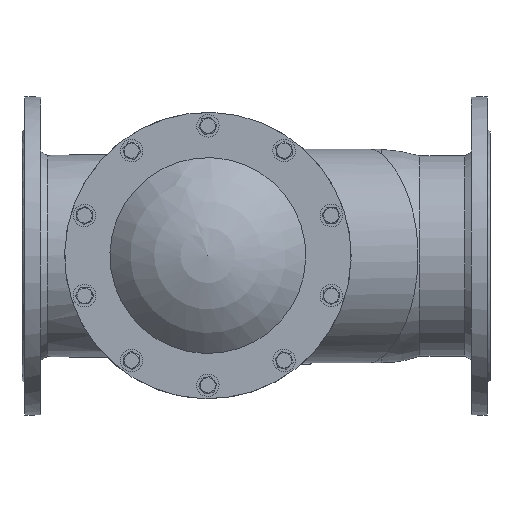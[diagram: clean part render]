
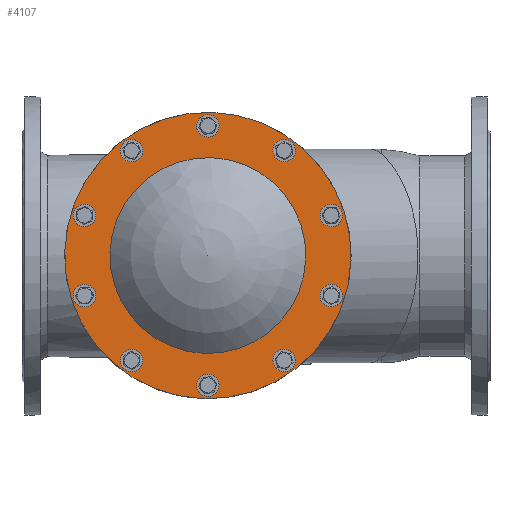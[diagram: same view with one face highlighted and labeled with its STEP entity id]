
A CAD part, top view. The second image highlights one B-rep face of the part: STEP entity #4107.
In plain terms, the highlighted planar face has unit normal (0, 0, 1).
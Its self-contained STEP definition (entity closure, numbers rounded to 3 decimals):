
#4107=ADVANCED_FACE('',(#7933,#7935,#7937,#7939,#7941,#7943,#7945,#7947,#7949,#7951,
#7953,#7955),#7957,.T.);
#7933=FACE_BOUND('',#7934,.T.);
#7934=EDGE_LOOP('',(#12355));
#7935=FACE_BOUND('',#7936,.T.);
#7936=EDGE_LOOP('',(#12356));
#7937=FACE_BOUND('',#7938,.T.);
#7938=EDGE_LOOP('',(#12357));
#7939=FACE_BOUND('',#7940,.T.);
#7940=EDGE_LOOP('',(#12358));
#7941=FACE_BOUND('',#7942,.T.);
#7942=EDGE_LOOP('',(#12359));
#7943=FACE_BOUND('',#7944,.T.);
#7944=EDGE_LOOP('',(#12360));
#7945=FACE_BOUND('',#7946,.T.);
#7946=EDGE_LOOP('',(#12361));
#7947=FACE_BOUND('',#7948,.T.);
#7948=EDGE_LOOP('',(#12362));
#7949=FACE_BOUND('',#7950,.T.);
#7950=EDGE_LOOP('',(#12363));
#7951=FACE_BOUND('',#7952,.T.);
#7952=EDGE_LOOP('',(#12364));
#7953=FACE_BOUND('',#7954,.T.);
#7954=EDGE_LOOP('',(#12365));
#7955=FACE_BOUND('',#7956,.T.);
#7956=EDGE_LOOP('',(#12366));
#7957=PLANE('',#7958);
#7958=AXIS2_PLACEMENT_3D('',#7959,#7960,#7961);
#7959=CARTESIAN_POINT('',(0.,0.,14.));
#7960=DIRECTION('',(0.,0.,1.));
#7961=DIRECTION('',(-1.,0.,0.));
#12355=ORIENTED_EDGE('',*,*,#13587,.T.);
#12356=ORIENTED_EDGE('',*,*,#13586,.T.);
#12357=ORIENTED_EDGE('',*,*,#13588,.T.);
#12358=ORIENTED_EDGE('',*,*,#13589,.T.);
#12359=ORIENTED_EDGE('',*,*,#13590,.T.);
#12360=ORIENTED_EDGE('',*,*,#13591,.T.);
#12361=ORIENTED_EDGE('',*,*,#13592,.T.);
#12362=ORIENTED_EDGE('',*,*,#13593,.T.);
#12363=ORIENTED_EDGE('',*,*,#13594,.T.);
#12364=ORIENTED_EDGE('',*,*,#13595,.T.);
#12365=ORIENTED_EDGE('',*,*,#13596,.T.);
#12366=ORIENTED_EDGE('',*,*,#13597,.T.);
#13586=EDGE_CURVE('',#15390,#15390,#15391,.F.);
#13587=EDGE_CURVE('',#15392,#15392,#15393,.T.);
#13588=EDGE_CURVE('',#15394,#15394,#15395,.F.);
#13589=EDGE_CURVE('',#15396,#15396,#15397,.F.);
#13590=EDGE_CURVE('',#15398,#15398,#15399,.F.);
#13591=EDGE_CURVE('',#15400,#15400,#15401,.F.);
#13592=EDGE_CURVE('',#15402,#15402,#15403,.F.);
#13593=EDGE_CURVE('',#15404,#15404,#15405,.F.);
#13594=EDGE_CURVE('',#15406,#15406,#15407,.F.);
#13595=EDGE_CURVE('',#15408,#15408,#15409,.F.);
#13596=EDGE_CURVE('',#15410,#15410,#15411,.F.);
#13597=EDGE_CURVE('',#15412,#15412,#15413,.F.);
#15390=VERTEX_POINT('',#21721);
#15391=CIRCLE('',#21722,104.645);
#15392=VERTEX_POINT('',#21726);
#15393=CIRCLE('',#21727,153.);
#15394=VERTEX_POINT('',#21731);
#15395=CIRCLE('',#21732,7.);
#15396=VERTEX_POINT('',#21736);
#15397=CIRCLE('',#21737,7.);
#15398=VERTEX_POINT('',#21741);
#15399=CIRCLE('',#21742,7.);
#15400=VERTEX_POINT('',#21746);
#15401=CIRCLE('',#21747,7.);
#15402=VERTEX_POINT('',#21751);
#15403=CIRCLE('',#21752,7.);
#15404=VERTEX_POINT('',#21756);
#15405=CIRCLE('',#21757,7.);
#15406=VERTEX_POINT('',#21761);
#15407=CIRCLE('',#21762,7.);
#15408=VERTEX_POINT('',#21766);
#15409=CIRCLE('',#21767,7.);
#15410=VERTEX_POINT('',#21771);
#15411=CIRCLE('',#21772,7.);
#15412=VERTEX_POINT('',#21776);
#15413=CIRCLE('',#21777,7.);
#21721=CARTESIAN_POINT('',(0.,104.645,14.));
#21722=AXIS2_PLACEMENT_3D('',#21723,#21724,#21725);
#21723=CARTESIAN_POINT('',(0.,0.,14.));
#21724=DIRECTION('',(0.,0.,1.));
#21725=DIRECTION('',(0.,1.,0.));
#21726=CARTESIAN_POINT('',(-153.,0.,14.));
#21727=AXIS2_PLACEMENT_3D('',#21728,#21729,#21730);
#21728=CARTESIAN_POINT('',(0.,0.,14.));
#21729=DIRECTION('',(0.,0.,1.));
#21730=DIRECTION('',(-1.,0.,0.));
#21731=CARTESIAN_POINT('',(116.244,-87.13,14.));
#21732=AXIS2_PLACEMENT_3D('',#21733,#21734,#21735);
#21733=CARTESIAN_POINT('',(112.13,-81.467,14.));
#21734=DIRECTION('',(0.,0.,1.));
#21735=DIRECTION('',(0.588,-0.809,0.));
#21736=CARTESIAN_POINT('',(145.257,-2.163,14.));
#21737=AXIS2_PLACEMENT_3D('',#21738,#21739,#21740);
#21738=CARTESIAN_POINT('',(138.6,0.,14.));
#21739=DIRECTION('',(0.,0.,1.));
#21740=DIRECTION('',(0.951,-0.309,0.));
#21741=CARTESIAN_POINT('',(118.787,83.63,14.));
#21742=AXIS2_PLACEMENT_3D('',#21743,#21744,#21745);
#21743=CARTESIAN_POINT('',(112.13,81.467,14.));
#21744=DIRECTION('',(0.,0.,1.));
#21745=DIRECTION('',(0.951,0.309,0.));
#21746=CARTESIAN_POINT('',(46.944,137.48,14.));
#21747=AXIS2_PLACEMENT_3D('',#21748,#21749,#21750);
#21748=CARTESIAN_POINT('',(42.83,131.816,14.));
#21749=DIRECTION('',(0.,0.,1.));
#21750=DIRECTION('',(0.588,0.809,0.));
#21751=CARTESIAN_POINT('',(-42.83,138.816,14.));
#21752=AXIS2_PLACEMENT_3D('',#21753,#21754,#21755);
#21753=CARTESIAN_POINT('',(-42.83,131.816,14.));
#21754=DIRECTION('',(0.,0.,1.));
#21755=DIRECTION('',(0.,1.,0.));
#21756=CARTESIAN_POINT('',(-116.244,87.13,14.));
#21757=AXIS2_PLACEMENT_3D('',#21758,#21759,#21760);
#21758=CARTESIAN_POINT('',(-112.13,81.467,14.));
#21759=DIRECTION('',(0.,0.,1.));
#21760=DIRECTION('',(-0.588,0.809,0.));
#21761=CARTESIAN_POINT('',(-145.257,2.163,14.));
#21762=AXIS2_PLACEMENT_3D('',#21763,#21764,#21765);
#21763=CARTESIAN_POINT('',(-138.6,0.,14.));
#21764=DIRECTION('',(0.,0.,1.));
#21765=DIRECTION('',(-0.951,0.309,0.));
#21766=CARTESIAN_POINT('',(-118.787,-83.63,14.));
#21767=AXIS2_PLACEMENT_3D('',#21768,#21769,#21770);
#21768=CARTESIAN_POINT('',(-112.13,-81.467,14.));
#21769=DIRECTION('',(0.,0.,1.));
#21770=DIRECTION('',(-0.951,-0.309,0.));
#21771=CARTESIAN_POINT('',(-46.944,-137.48,14.));
#21772=AXIS2_PLACEMENT_3D('',#21773,#21774,#21775);
#21773=CARTESIAN_POINT('',(-42.83,-131.816,14.));
#21774=DIRECTION('',(0.,0.,1.));
#21775=DIRECTION('',(-0.588,-0.809,0.));
#21776=CARTESIAN_POINT('',(42.83,-138.816,14.));
#21777=AXIS2_PLACEMENT_3D('',#21778,#21779,#21780);
#21778=CARTESIAN_POINT('',(42.83,-131.816,14.));
#21779=DIRECTION('',(0.,0.,1.));
#21780=DIRECTION('',(0.,-1.,0.));
